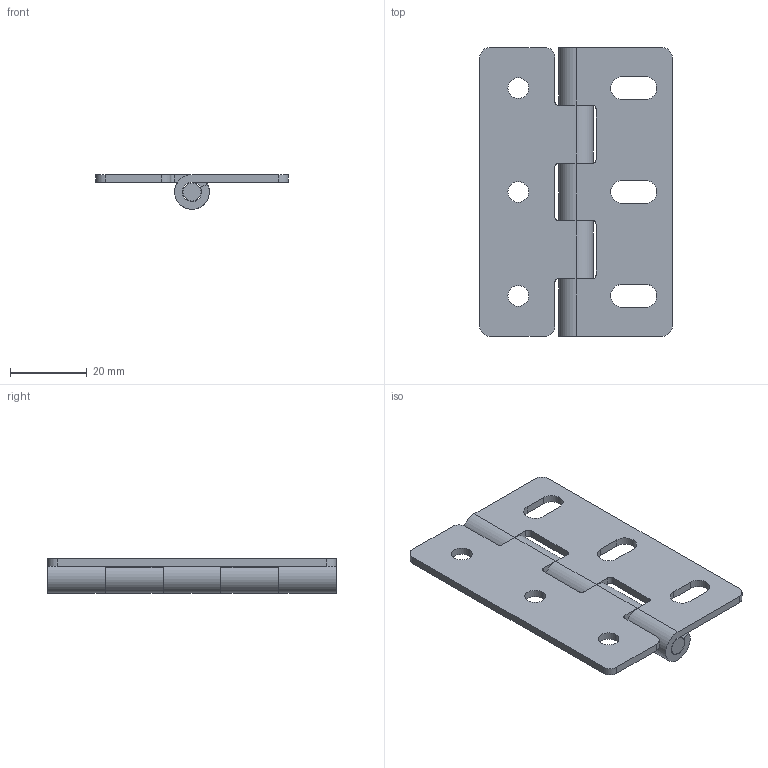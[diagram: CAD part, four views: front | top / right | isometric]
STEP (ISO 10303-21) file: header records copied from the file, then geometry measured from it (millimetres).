
FILE_DESCRIPTION(/* description */ (''),/* implementation_level */ '2;1');
FILE_NAME(/* name */ 'JL253-2',/* time_stamp */ '2024-10-05T13:34:48+08:00',/* author */ (''),/* organization */ (''),/* preprocessor_version */ 'ST-DEVELOPER v19.2',/* originating_system */ 'Rhino 8.5',/* authorisation */ '');
FILE_SCHEMA (('CONFIG_CONTROL_DESIGN'));
Length unit declared in the file: millimetre
Products named in the file (1): Document
Bounding box: 50 x 75 x 9 mm (x, y, z)
Volume: 10170.2 mm3; surface area: 11506 mm2
Topology: 3 solids, 3 shells, 74 faces, 204 edges, 136 vertices
Faces by surface type: cylinder 38, plane 36
Entity records: 2458 total; most frequent: CARTESIAN_POINT 687, ORIENTED_EDGE 408, DIRECTION 221, EDGE_CURVE 204, AXIS2_PLACEMENT_3D 143, VERTEX_POINT 136, B_SPLINE_CURVE_WITH_KNOTS 106, EDGE_LOOP 86
